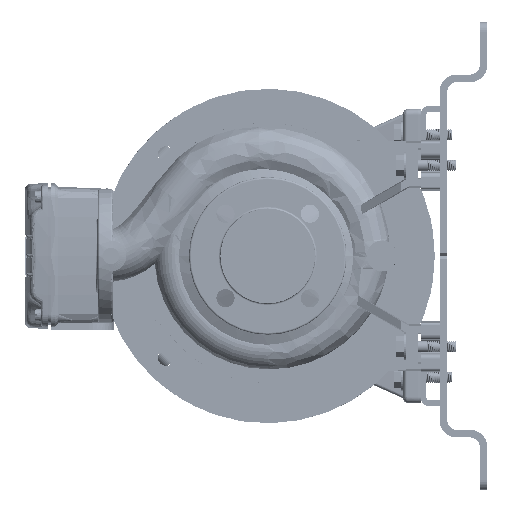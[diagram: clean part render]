
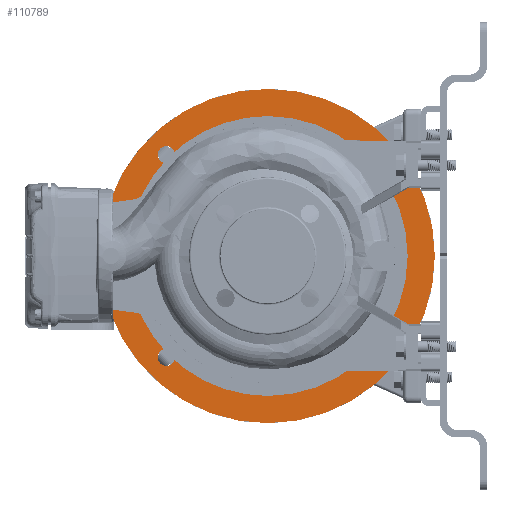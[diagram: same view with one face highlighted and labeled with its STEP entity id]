
A CAD part, left-side view. The second image highlights one B-rep face of the part: STEP entity #110789.
In plain terms, the highlighted planar face has unit normal (-1, 0, 0).
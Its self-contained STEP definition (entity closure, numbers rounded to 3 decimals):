
#520 = CARTESIAN_POINT ( 'NONE',  ( 170.681, 388.161, 318.545 ) ) ;
#3554 = DIRECTION ( 'NONE',  ( 0., 0., 1. ) ) ;
#8036 = CARTESIAN_POINT ( 'NONE',  ( 170.681, 213.161, 318.545 ) ) ;
#12250 = AXIS2_PLACEMENT_3D ( 'NONE', #520, #119855, #3554 ) ;
#12618 = DIRECTION ( 'NONE',  ( 1., 0., 0. ) ) ;
#16970 = EDGE_LOOP ( 'NONE', ( #155214, #209970 ) ) ;
#17555 = AXIS2_PLACEMENT_3D ( 'NONE', #46089, #186959, #118812 ) ;
#23848 = CIRCLE ( 'NONE', #142628, 9. ) ;
#24957 = VERTEX_POINT ( 'NONE', #57939 ) ;
#28497 = CARTESIAN_POINT ( 'NONE',  ( 170.681, 213.161, 318.545 ) ) ;
#28511 = ORIENTED_EDGE ( 'NONE', *, *, #241085, .T. ) ;
#30654 = DIRECTION ( 'NONE',  ( 1., 0., 0. ) ) ;
#34560 = DIRECTION ( 'NONE',  ( 1., 0., 0. ) ) ;
#35581 = CIRCLE ( 'NONE', #228598, 9. ) ;
#38550 = ORIENTED_EDGE ( 'NONE', *, *, #262697, .T. ) ;
#38714 = CARTESIAN_POINT ( 'NONE',  ( 170.681, 319.196, 433.635 ) ) ;
#43265 = CARTESIAN_POINT ( 'NONE',  ( 170.681, 213.161, 446.225 ) ) ;
#46089 = CARTESIAN_POINT ( 'NONE',  ( 170.681, 319.196, 424.635 ) ) ;
#46153 = ORIENTED_EDGE ( 'NONE', *, *, #157382, .F. ) ;
#46516 = CARTESIAN_POINT ( 'NONE',  ( 170.681, 213.161, 143.545 ) ) ;
#48339 = DIRECTION ( 'NONE',  ( 0., 0., 1. ) ) ;
#49554 = EDGE_CURVE ( 'NONE', #279984, #212378, #23848, .T. ) ;
#49908 = EDGE_LOOP ( 'NONE', ( #158471, #107439 ) ) ;
#49994 = CARTESIAN_POINT ( 'NONE',  ( 170.681, 213.161, 318.545 ) ) ;
#52392 = CIRCLE ( 'NONE', #67180, 9. ) ;
#52934 = EDGE_CURVE ( 'NONE', #212378, #279984, #72008, .T. ) ;
#53748 = DIRECTION ( 'NONE',  ( 0., 0., 1. ) ) ;
#53848 = AXIS2_PLACEMENT_3D ( 'NONE', #145350, #30654, #216543 ) ;
#54435 = AXIS2_PLACEMENT_3D ( 'NONE', #49994, #142919, #169189 ) ;
#56383 = ORIENTED_EDGE ( 'NONE', *, *, #220176, .F. ) ;
#57939 = CARTESIAN_POINT ( 'NONE',  ( 170.681, 213.161, 190.866 ) ) ;
#58494 = AXIS2_PLACEMENT_3D ( 'NONE', #297792, #170986, #274472 ) ;
#60312 = CIRCLE ( 'NONE', #104982, 175. ) ;
#63826 = DIRECTION ( 'NONE',  ( 0., 0., -1. ) ) ;
#67180 = AXIS2_PLACEMENT_3D ( 'NONE', #109735, #124261, #204168 ) ;
#67612 = CARTESIAN_POINT ( 'NONE',  ( 170.681, 319.196, 424.635 ) ) ;
#72008 = CIRCLE ( 'NONE', #17555, 9. ) ;
#75455 = ORIENTED_EDGE ( 'NONE', *, *, #154937, .F. ) ;
#76631 = ORIENTED_EDGE ( 'NONE', *, *, #141190, .T. ) ;
#80599 = PLANE ( 'NONE',  #12250 ) ;
#82370 = VERTEX_POINT ( 'NONE', #255208 ) ;
#89242 = DIRECTION ( 'NONE',  ( -1., 0., 0. ) ) ;
#90494 = EDGE_LOOP ( 'NONE', ( #46153, #56383 ) ) ;
#96269 = EDGE_CURVE ( 'NONE', #127504, #245007, #286338, .T. ) ;
#100573 = CARTESIAN_POINT ( 'NONE',  ( 170.681, 107.126, 415.635 ) ) ;
#104075 = ORIENTED_EDGE ( 'NONE', *, *, #165034, .F. ) ;
#104982 = AXIS2_PLACEMENT_3D ( 'NONE', #241913, #144327, #142799 ) ;
#106086 = ORIENTED_EDGE ( 'NONE', *, *, #157497, .T. ) ;
#107439 = ORIENTED_EDGE ( 'NONE', *, *, #96269, .F. ) ;
#108239 = VERTEX_POINT ( 'NONE', #187949 ) ;
#109735 = CARTESIAN_POINT ( 'NONE',  ( 170.681, 319.196, 212.456 ) ) ;
#110789 = ADVANCED_FACE ( 'NONE', ( #144627, #191004, #215829, #192512, #284309, #121381 ), #80599, .T. ) ;
#111703 = EDGE_CURVE ( 'NONE', #245007, #127504, #219544, .T. ) ;
#118812 = DIRECTION ( 'NONE',  ( 0., 0., -1. ) ) ;
#119855 = DIRECTION ( 'NONE',  ( -1., 0., 0. ) ) ;
#120569 = CARTESIAN_POINT ( 'NONE',  ( 170.681, 107.126, 203.456 ) ) ;
#121381 = FACE_BOUND ( 'NONE', #221212, .T. ) ;
#124261 = DIRECTION ( 'NONE',  ( -1., 0., 0. ) ) ;
#124719 = AXIS2_PLACEMENT_3D ( 'NONE', #28497, #222076, #197167 ) ;
#125576 = AXIS2_PLACEMENT_3D ( 'NONE', #253004, #135102, #63826 ) ;
#127504 = VERTEX_POINT ( 'NONE', #258226 ) ;
#129004 = DIRECTION ( 'NONE',  ( 0., 0., 1. ) ) ;
#132855 = AXIS2_PLACEMENT_3D ( 'NONE', #176973, #34560, #129004 ) ;
#134210 = DIRECTION ( 'NONE',  ( 0., 0., 1. ) ) ;
#135102 = DIRECTION ( 'NONE',  ( -1., 0., 0. ) ) ;
#136099 = VERTEX_POINT ( 'NONE', #156917 ) ;
#141190 = EDGE_CURVE ( 'NONE', #24957, #173934, #242129, .T. ) ;
#142628 = AXIS2_PLACEMENT_3D ( 'NONE', #67612, #163677, #259852 ) ;
#142799 = DIRECTION ( 'NONE',  ( 0., 0., -1. ) ) ;
#142919 = DIRECTION ( 'NONE',  ( 1., 0., 0. ) ) ;
#144327 = DIRECTION ( 'NONE',  ( 1., 0., 0. ) ) ;
#144627 = FACE_BOUND ( 'NONE', #16970, .T. ) ;
#145350 = CARTESIAN_POINT ( 'NONE',  ( 170.681, 213.161, 318.545 ) ) ;
#154334 = CIRCLE ( 'NONE', #124719, 127.679 ) ;
#154937 = EDGE_CURVE ( 'NONE', #136099, #184676, #52392, .T. ) ;
#155214 = ORIENTED_EDGE ( 'NONE', *, *, #49554, .T. ) ;
#156917 = CARTESIAN_POINT ( 'NONE',  ( 170.681, 319.196, 221.456 ) ) ;
#157382 = EDGE_CURVE ( 'NONE', #284161, #280213, #60312, .T. ) ;
#157406 = AXIS2_PLACEMENT_3D ( 'NONE', #301750, #89242, #134210 ) ;
#157497 = EDGE_CURVE ( 'NONE', #243696, #108239, #35581, .T. ) ;
#158471 = ORIENTED_EDGE ( 'NONE', *, *, #111703, .F. ) ;
#160114 = CIRCLE ( 'NONE', #209608, 23.5 ) ;
#163677 = DIRECTION ( 'NONE',  ( 1., 0., 0. ) ) ;
#165034 = EDGE_CURVE ( 'NONE', #184676, #136099, #206906, .T. ) ;
#169189 = DIRECTION ( 'NONE',  ( 0., 0., -1. ) ) ;
#170986 = DIRECTION ( 'NONE',  ( -1., 0., 0. ) ) ;
#173934 = VERTEX_POINT ( 'NONE', #43265 ) ;
#174678 = EDGE_CURVE ( 'NONE', #108239, #243696, #231949, .T. ) ;
#176973 = CARTESIAN_POINT ( 'NONE',  ( 170.681, 107.126, 212.456 ) ) ;
#180373 = EDGE_CURVE ( 'NONE', #173934, #197288, #297065, .T. ) ;
#184676 = VERTEX_POINT ( 'NONE', #268515 ) ;
#184778 = AXIS2_PLACEMENT_3D ( 'NONE', #8036, #12618, #294879 ) ;
#186959 = DIRECTION ( 'NONE',  ( 1., 0., 0. ) ) ;
#187949 = CARTESIAN_POINT ( 'NONE',  ( 170.681, 107.126, 221.456 ) ) ;
#191004 = FACE_BOUND ( 'NONE', #49908, .T. ) ;
#192512 = FACE_BOUND ( 'NONE', #292541, .T. ) ;
#195252 = CARTESIAN_POINT ( 'NONE',  ( 170.681, 107.126, 212.456 ) ) ;
#197167 = DIRECTION ( 'NONE',  ( 0., 0., -1. ) ) ;
#197288 = VERTEX_POINT ( 'NONE', #262063 ) ;
#204168 = DIRECTION ( 'NONE',  ( 0., 0., 1. ) ) ;
#206906 = CIRCLE ( 'NONE', #157406, 9. ) ;
#209608 = AXIS2_PLACEMENT_3D ( 'NONE', #266150, #241261, #53748 ) ;
#209970 = ORIENTED_EDGE ( 'NONE', *, *, #52934, .T. ) ;
#212378 = VERTEX_POINT ( 'NONE', #38714 ) ;
#215829 = FACE_OUTER_BOUND ( 'NONE', #90494, .T. ) ;
#216543 = DIRECTION ( 'NONE',  ( 0., 0., -1. ) ) ;
#219544 = CIRCLE ( 'NONE', #125576, 9. ) ;
#220176 = EDGE_CURVE ( 'NONE', #280213, #284161, #269046, .T. ) ;
#221212 = EDGE_LOOP ( 'NONE', ( #28511, #76631, #236669, #38550 ) ) ;
#222076 = DIRECTION ( 'NONE',  ( 1., 0., 0. ) ) ;
#228598 = AXIS2_PLACEMENT_3D ( 'NONE', #195252, #260702, #48339 ) ;
#231949 = CIRCLE ( 'NONE', #132855, 9. ) ;
#236669 = ORIENTED_EDGE ( 'NONE', *, *, #180373, .T. ) ;
#241085 = EDGE_CURVE ( 'NONE', #82370, #24957, #154334, .T. ) ;
#241261 = DIRECTION ( 'NONE',  ( 1., 0., 0. ) ) ;
#241506 = CARTESIAN_POINT ( 'NONE',  ( 170.681, 319.196, 415.635 ) ) ;
#241913 = CARTESIAN_POINT ( 'NONE',  ( 170.681, 213.161, 318.545 ) ) ;
#242129 = CIRCLE ( 'NONE', #53848, 127.679 ) ;
#243696 = VERTEX_POINT ( 'NONE', #120569 ) ;
#245007 = VERTEX_POINT ( 'NONE', #100573 ) ;
#249074 = ORIENTED_EDGE ( 'NONE', *, *, #174678, .T. ) ;
#253004 = CARTESIAN_POINT ( 'NONE',  ( 170.681, 107.126, 424.635 ) ) ;
#255208 = CARTESIAN_POINT ( 'NONE',  ( 170.681, 86.57, 301.904 ) ) ;
#258226 = CARTESIAN_POINT ( 'NONE',  ( 170.681, 107.126, 433.635 ) ) ;
#259852 = DIRECTION ( 'NONE',  ( 0., 0., -1. ) ) ;
#260702 = DIRECTION ( 'NONE',  ( 1., 0., 0. ) ) ;
#262063 = CARTESIAN_POINT ( 'NONE',  ( 170.681, 86.57, 335.187 ) ) ;
#262697 = EDGE_CURVE ( 'NONE', #197288, #82370, #160114, .T. ) ;
#266150 = CARTESIAN_POINT ( 'NONE',  ( 170.681, 103.163, 318.545 ) ) ;
#268515 = CARTESIAN_POINT ( 'NONE',  ( 170.681, 319.196, 203.456 ) ) ;
#269046 = CIRCLE ( 'NONE', #184778, 175. ) ;
#272618 = EDGE_LOOP ( 'NONE', ( #249074, #106086 ) ) ;
#274472 = DIRECTION ( 'NONE',  ( 0., 0., -1. ) ) ;
#278628 = CARTESIAN_POINT ( 'NONE',  ( 170.681, 213.161, 493.545 ) ) ;
#279984 = VERTEX_POINT ( 'NONE', #241506 ) ;
#280213 = VERTEX_POINT ( 'NONE', #278628 ) ;
#284161 = VERTEX_POINT ( 'NONE', #46516 ) ;
#284309 = FACE_BOUND ( 'NONE', #272618, .T. ) ;
#286338 = CIRCLE ( 'NONE', #58494, 9. ) ;
#292541 = EDGE_LOOP ( 'NONE', ( #75455, #104075 ) ) ;
#294879 = DIRECTION ( 'NONE',  ( 0., 0., -1. ) ) ;
#297065 = CIRCLE ( 'NONE', #54435, 127.679 ) ;
#297792 = CARTESIAN_POINT ( 'NONE',  ( 170.681, 107.126, 424.635 ) ) ;
#301750 = CARTESIAN_POINT ( 'NONE',  ( 170.681, 319.196, 212.456 ) ) ;
